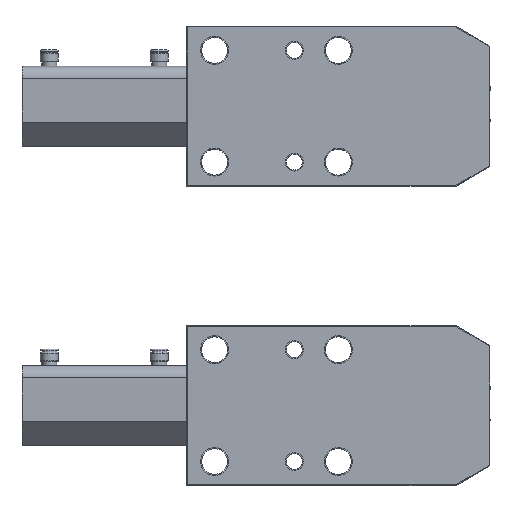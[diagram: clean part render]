
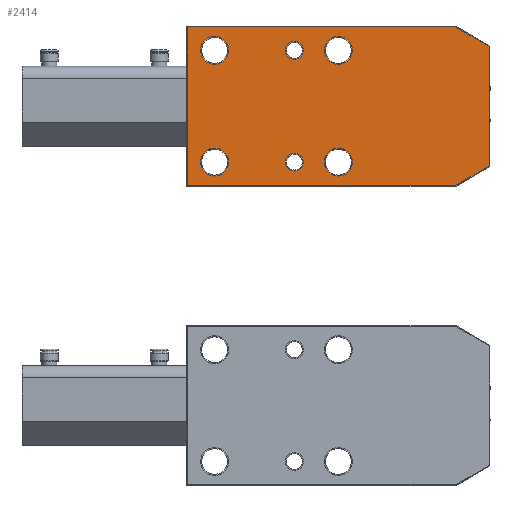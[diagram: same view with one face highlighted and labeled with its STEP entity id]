
A CAD part, top view. The second image highlights one B-rep face of the part: STEP entity #2414.
In plain terms, the highlighted planar face has unit normal (0, 0, 1).
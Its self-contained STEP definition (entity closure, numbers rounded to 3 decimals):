
#2414=ADVANCED_FACE('',(#5019,#5020,#5021,#5022,#5023,#5024,#5025),#5026,.F.);
#5019=FACE_OUTER_BOUND('',#8111,.T.);
#5020=FACE_BOUND('',#8112,.T.);
#5021=FACE_BOUND('',#8113,.T.);
#5022=FACE_BOUND('',#8114,.T.);
#5023=FACE_BOUND('',#8115,.T.);
#5024=FACE_BOUND('',#8116,.T.);
#5025=FACE_BOUND('',#8117,.T.);
#5026=PLANE('',#8118);
#8111=EDGE_LOOP('',(#15446,#15447,#15448,#15449,#15450,#15451));
#8112=EDGE_LOOP('',(#15452));
#8113=EDGE_LOOP('',(#15453));
#8114=EDGE_LOOP('',(#15454));
#8115=EDGE_LOOP('',(#15455));
#8116=EDGE_LOOP('',(#15456));
#8117=EDGE_LOOP('',(#15457));
#8118=AXIS2_PLACEMENT_3D('',#15458,#15459,#15460);
#15446=ORIENTED_EDGE('',*,*,#18860,.F.);
#15447=ORIENTED_EDGE('',*,*,#18964,.T.);
#15448=ORIENTED_EDGE('',*,*,#19103,.F.);
#15449=ORIENTED_EDGE('',*,*,#18930,.F.);
#15450=ORIENTED_EDGE('',*,*,#18966,.F.);
#15451=ORIENTED_EDGE('',*,*,#18699,.T.);
#15452=ORIENTED_EDGE('',*,*,#19104,.T.);
#15453=ORIENTED_EDGE('',*,*,#18107,.T.);
#15454=ORIENTED_EDGE('',*,*,#19105,.T.);
#15455=ORIENTED_EDGE('',*,*,#19106,.T.);
#15456=ORIENTED_EDGE('',*,*,#18842,.T.);
#15457=ORIENTED_EDGE('',*,*,#18087,.T.);
#15458=CARTESIAN_POINT('',(1778.0,-150.0,47.0));
#15459=DIRECTION('',(0.0,0.0,-1.0));
#15460=DIRECTION('',(0.0,-1.0,0.0));
#18087=EDGE_CURVE('',#21891,#21891,#21892,.T.);
#18107=EDGE_CURVE('',#21924,#21924,#21925,.T.);
#18699=EDGE_CURVE('',#22873,#22871,#22874,.T.);
#18842=EDGE_CURVE('',#23069,#23069,#23070,.T.);
#18860=EDGE_CURVE('',#23092,#22871,#23094,.T.);
#18930=EDGE_CURVE('',#23189,#23190,#23191,.T.);
#18964=EDGE_CURVE('',#23092,#23232,#23234,.T.);
#18966=EDGE_CURVE('',#22873,#23189,#23236,.T.);
#19103=EDGE_CURVE('',#23190,#23232,#23399,.T.);
#19104=EDGE_CURVE('',#23400,#23400,#23401,.T.);
#19105=EDGE_CURVE('',#23402,#23402,#23403,.T.);
#19106=EDGE_CURVE('',#23404,#23404,#23405,.T.);
#21891=VERTEX_POINT('',#27858);
#21892=CIRCLE('',#27859,7.0);
#21924=VERTEX_POINT('',#27910);
#21925=CIRCLE('',#27911,4.5);
#22871=VERTEX_POINT('',#29526);
#22873=VERTEX_POINT('',#29529);
#22874=LINE('',#29530,#29531);
#23069=VERTEX_POINT('',#29845);
#23070=CIRCLE('',#29846,7.0);
#23092=VERTEX_POINT('',#29879);
#23094=LINE('',#29882,#29883);
#23189=VERTEX_POINT('',#30033);
#23190=VERTEX_POINT('',#30034);
#23191=LINE('',#30035,#30036);
#23232=VERTEX_POINT('',#30103);
#23234=LINE('',#30106,#30107);
#23236=LINE('',#30109,#30110);
#23399=LINE('',#30371,#30372);
#23400=VERTEX_POINT('',#30373);
#23401=CIRCLE('',#30374,4.5);
#23402=VERTEX_POINT('',#30375);
#23403=CIRCLE('',#30376,7.0);
#23404=VERTEX_POINT('',#30377);
#23405=CIRCLE('',#30378,7.0);
#27858=CARTESIAN_POINT('',(69.,162.0,47.0));
#27859=AXIS2_PLACEMENT_3D('',#31721,#31722,#31723);
#27910=CARTESIAN_POINT('',(49.5,162.0,47.0));
#27911=AXIS2_PLACEMENT_3D('',#31733,#31734,#31735);
#29526=CARTESIAN_POINT('',(151.75,160.065,47.0));
#29529=CARTESIAN_POINT('',(134.75,150.25,47.0));
#29530=CARTESIAN_POINT('',(134.75,150.25,47.0));
#29531=VECTOR('',#32075,1.0);
#29845=CARTESIAN_POINT('',(7.,162.0,47.0));
#29846=AXIS2_PLACEMENT_3D('',#32155,#32156,#32157);
#29879=CARTESIAN_POINT('',(151.75,219.935,47.0));
#29882=CARTESIAN_POINT('',(151.75,161.691,47.0));
#29883=VECTOR('',#32169,1.0);
#30033=CARTESIAN_POINT('',(0.25,150.25,47.0));
#30034=CARTESIAN_POINT('',(0.25,229.75,47.0));
#30035=CARTESIAN_POINT('',(0.25,229.75,47.0));
#30036=VECTOR('',#32212,1.0);
#30103=CARTESIAN_POINT('',(134.75,229.75,47.0));
#30106=CARTESIAN_POINT('',(151.75,219.935,47.0));
#30107=VECTOR('',#32230,1.0);
#30109=CARTESIAN_POINT('',(0.25,150.25,47.0));
#30110=VECTOR('',#32231,1.0);
#30371=CARTESIAN_POINT('',(131.933,229.75,47.0));
#30372=VECTOR('',#32321,1.0);
#30373=CARTESIAN_POINT('',(49.5,218.0,47.0));
#30374=AXIS2_PLACEMENT_3D('',#32322,#32323,#32324);
#30375=CARTESIAN_POINT('',(69.,218.0,47.0));
#30376=AXIS2_PLACEMENT_3D('',#32325,#32326,#32327);
#30377=CARTESIAN_POINT('',(7.,218.0,47.0));
#30378=AXIS2_PLACEMENT_3D('',#32328,#32329,#32330);
#31721=CARTESIAN_POINT('',(76.,162.0,47.0));
#31722=DIRECTION('',(0.0,0.0,-1.0));
#31723=DIRECTION('',(-1.0,0.0,0.0));
#31733=CARTESIAN_POINT('',(54.,162.0,47.0));
#31734=DIRECTION('',(0.0,0.0,-1.0));
#31735=DIRECTION('',(-1.0,0.0,0.0));
#32075=DIRECTION('',(0.866,0.5,-0.0));
#32155=CARTESIAN_POINT('',(14.,162.0,47.0));
#32156=DIRECTION('',(0.0,0.0,-1.0));
#32157=DIRECTION('',(-1.0,0.0,0.0));
#32169=DIRECTION('',(0.0,-1.0,0.0));
#32212=DIRECTION('',(0.0,1.0,0.0));
#32230=DIRECTION('',(-0.866,0.5,-0.0));
#32231=DIRECTION('',(-1.0,0.0,0.0));
#32321=DIRECTION('',(1.0,0.0,0.0));
#32322=CARTESIAN_POINT('',(54.,218.0,47.0));
#32323=DIRECTION('',(0.0,0.0,-1.0));
#32324=DIRECTION('',(-1.0,0.0,0.0));
#32325=CARTESIAN_POINT('',(76.,218.0,47.0));
#32326=DIRECTION('',(0.0,0.0,-1.0));
#32327=DIRECTION('',(-1.0,0.0,0.0));
#32328=CARTESIAN_POINT('',(14.,218.0,47.0));
#32329=DIRECTION('',(0.0,0.0,-1.0));
#32330=DIRECTION('',(-1.0,0.0,0.0));
